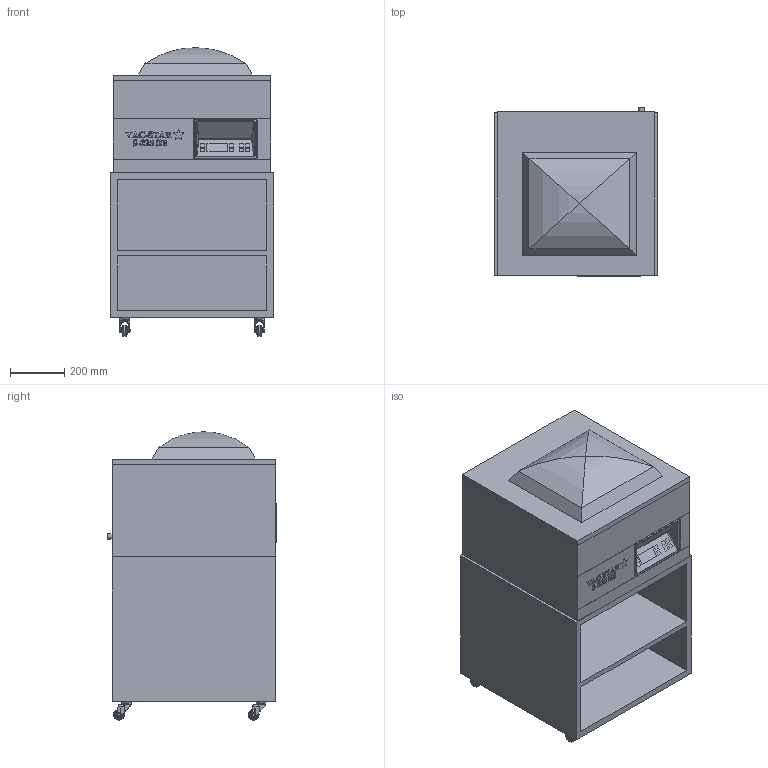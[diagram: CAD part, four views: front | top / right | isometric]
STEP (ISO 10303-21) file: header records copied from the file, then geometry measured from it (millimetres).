
FILE_DESCRIPTION(/* description */ ('Unknown'),/* implementation_level */ '2;1');
FILE_NAME(/* name */ 'C3D-S225-SB-mit-Unterbau-L-AA',/* time_stamp */ '2021-10-22T10:47:53+02:00',/* author */ ('Unknown'),/* organization */ ('Unknown'),/* preprocessor_version */ 'ST-DEVELOPER v16.7',/* originating_system */ 'Solid Edge',/* authorisation */ 'Unknown');
FILE_SCHEMA (('AUTOMOTIVE_DESIGN {1 0 10303 214 3 1 1}'));
Length unit declared in the file: millimetre
Products named in the file (8): R-VAC-STAR-S225-SB-U; R-VAC-STAR-UnterbauL; R-VAC-STAR-S225-SB; 310X PT 50 EL; 310X PT 50 EL_body; 310X PT 50 EL_shaft; 50 EL-6-X; 310X PT 50 EL_plate
Assembly tree (10 placements, depth 3):
  R-VAC-STAR-S225-SB-U
    R-VAC-STAR-UnterbauL
    R-VAC-STAR-S225-SB
    310X PT 50 EL  x4
      310X PT 50 EL_body
      310X PT 50 EL_shaft
      50 EL-6-X
      310X PT 50 EL_plate
Bounding box: 600 x 618.01 x 1060 mm (x, y, z)
Volume: 145508675.8 mm3; surface area: 6450115 mm2
Topology: 19 solids, 19 shells, 1588 faces, 3849 edges, 2486 vertices
Faces by surface type: plane 918, cylinder 354, cone 128, torus 116, bspline 46, sphere 26
Full cylindrical faces by diameter (mm): 0.025 x4, 0.1 x4, 1.2 x4, 1.25 x4, 6 x20, 7 x8, 7.8 x8, 9 x8, 10.8 x8, 13 x4, 20 x1, 21 x8, 30 x4, 34.5 x8, 36 x12, 37.5 x8, 39.5 x8, 40 x12
Entity records: 25222 total; most frequent: CARTESIAN_POINT 8462, ORIENTED_EDGE 2896, DIRECTION 2646, EDGE_CURVE 1448, VERTEX_POINT 980, LINE 898, VECTOR 898, AXIS2_PLACEMENT_3D 874
